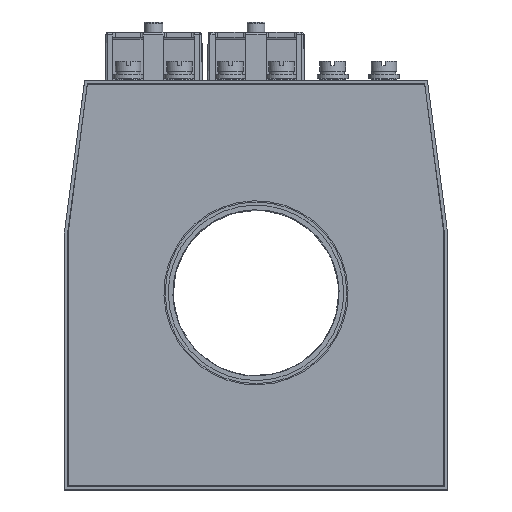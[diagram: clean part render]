
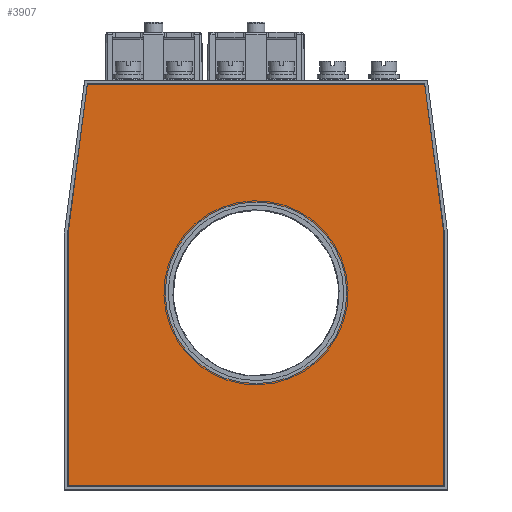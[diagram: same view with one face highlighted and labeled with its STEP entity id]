
A CAD part, top view. The second image highlights one B-rep face of the part: STEP entity #3907.
In plain terms, the highlighted planar face has unit normal (0, 0, 1).
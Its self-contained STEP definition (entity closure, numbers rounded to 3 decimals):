
#3907=ADVANCED_FACE('',(#6992,#6994),#6996,.T.);
#6992=FACE_BOUND('',#6993,.T.);
#6993=EDGE_LOOP('',(#8177,#8178,#8179,#8180,#8181,#8182));
#6994=FACE_BOUND('',#6995,.T.);
#6995=EDGE_LOOP('',(#8183));
#6996=PLANE('',#6997);
#6997=AXIS2_PLACEMENT_3D('',#6998,#6999,#7000);
#6998=CARTESIAN_POINT('',(0.,0.,5.));
#6999=DIRECTION('',(0.,0.,1.));
#7000=DIRECTION('',(1.,0.,0.));
#8177=ORIENTED_EDGE('',*,*,#8776,.T.);
#8178=ORIENTED_EDGE('',*,*,#8777,.T.);
#8179=ORIENTED_EDGE('',*,*,#8778,.T.);
#8180=ORIENTED_EDGE('',*,*,#8779,.T.);
#8181=ORIENTED_EDGE('',*,*,#8780,.T.);
#8182=ORIENTED_EDGE('',*,*,#8781,.T.);
#8183=ORIENTED_EDGE('',*,*,#8782,.T.);
#8776=EDGE_CURVE('',#9756,#9757,#9758,.T.);
#8777=EDGE_CURVE('',#9757,#9759,#9760,.T.);
#8778=EDGE_CURVE('',#9759,#9761,#9762,.T.);
#8779=EDGE_CURVE('',#9761,#9763,#9764,.T.);
#8780=EDGE_CURVE('',#9763,#9765,#9766,.T.);
#8781=EDGE_CURVE('',#9765,#9756,#9767,.T.);
#8782=EDGE_CURVE('',#9768,#9768,#9769,.F.);
#9756=VERTEX_POINT('',#12329);
#9757=VERTEX_POINT('',#12330);
#9758=LINE('',#12331,#12332);
#9759=VERTEX_POINT('',#12334);
#9760=LINE('',#12335,#12336);
#9761=VERTEX_POINT('',#12338);
#9762=LINE('',#12339,#12340);
#9763=VERTEX_POINT('',#12342);
#9764=LINE('',#12343,#12344);
#9765=VERTEX_POINT('',#12346);
#9766=LINE('',#12347,#12348);
#9767=LINE('',#12350,#12351);
#9768=VERTEX_POINT('',#12353);
#9769=CIRCLE('',#12354,35.5);
#12329=CARTESIAN_POINT('',(-73.5,19.815,5.));
#12330=CARTESIAN_POINT('',(-73.5,-78.5,5.));
#12331=CARTESIAN_POINT('',(-73.5,19.815,5.));
#12332=VECTOR('',#12333,1.);
#12333=DIRECTION('',(0.,-1.,0.));
#12334=CARTESIAN_POINT('',(73.5,-78.5,5.));
#12335=CARTESIAN_POINT('',(-73.5,-78.5,5.));
#12336=VECTOR('',#12337,1.);
#12337=DIRECTION('',(1.,0.,0.));
#12338=CARTESIAN_POINT('',(73.5,19.815,5.));
#12339=CARTESIAN_POINT('',(73.5,-78.5,5.));
#12340=VECTOR('',#12341,1.);
#12341=DIRECTION('',(0.,1.,0.));
#12342=CARTESIAN_POINT('',(66.,78.5,5.));
#12343=CARTESIAN_POINT('',(73.5,19.815,5.));
#12344=VECTOR('',#12345,1.);
#12345=DIRECTION('',(-0.127,0.992,0.));
#12346=CARTESIAN_POINT('',(-66.,78.5,5.));
#12347=CARTESIAN_POINT('',(66.,78.5,5.));
#12348=VECTOR('',#12349,1.);
#12349=DIRECTION('',(-1.,0.,0.));
#12350=CARTESIAN_POINT('',(-66.,78.5,5.));
#12351=VECTOR('',#12352,1.);
#12352=DIRECTION('',(-0.127,-0.992,0.));
#12353=CARTESIAN_POINT('',(35.5,-3.,5.));
#12354=AXIS2_PLACEMENT_3D('',#12355,#12356,#12357);
#12355=CARTESIAN_POINT('',(0.,-3.,5.));
#12356=DIRECTION('',(0.,0.,1.));
#12357=DIRECTION('',(1.,0.,0.));
